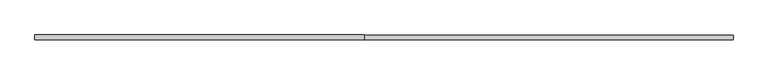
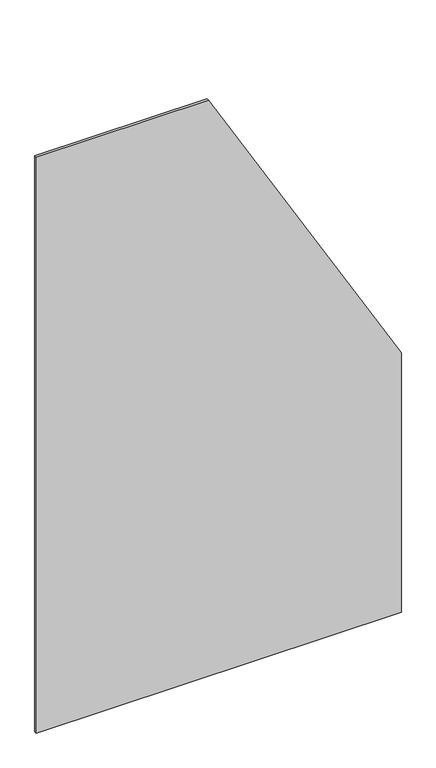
"""IFC4 building model written with IfcOpenShell, lengths in millimetres: plate geometry, 系統嵌板 : 玻璃 1.0cm."""

from ifc_helpers import new_model, si_unit, frame, origin, place, context, project, spatial, polyline, outline, extrude, source, transform, mapped, element, save


def plate_a04ca399(model_context):
    return source(origin(), model_context, "Body", "SweptSolid", [
        extrude(outline(polyline([(0.0, -750.0), (0.0, 750.0), (1126.9330411, 750.0), (2500.0, -42.7405784), (2500.0, -750.0), (0.0, -750.0)])), frame((0.0, -5.0, 0.0), z_axis=(0.0, 1.0, 0.0), x_axis=(0.0, 0.0, 1.0)), (0.0, 0.0, 1.0), 10.0),
    ])


if __name__ == "__main__":
    model = new_model("IFC4")
    model_context = context("Model", 3, world=origin())
    ifc_project = project(units=[si_unit("LENGTHUNIT", "METRE", prefix="MILLI")], contexts=[model_context])
    site = spatial("IfcSite", under=ifc_project)
    building = spatial("IfcBuilding", under=site)
    placement = place(None, origin())
    plate_shape = plate_a04ca399(model_context)
    element("IfcPlate", 1, ObjectType="系統嵌板 : 玻璃 1.0cm", at=placement, inside=building, context=model_context, shape_type="MappedRepresentation", body=[
        mapped(plate_shape, transform((0.0, 0.0, 0.0), x_axis=(1.0, 0.0, 0.0), y_axis=(0.0, 1.0, 0.0), z_axis=(0.0, 0.0, 1.0))),
    ])
    save(model, "model.ifc")
